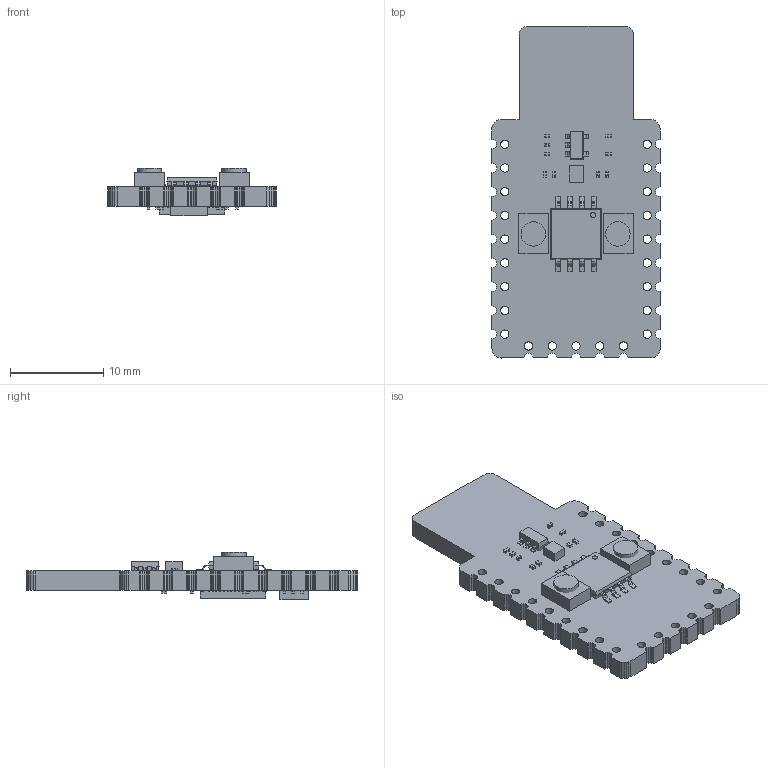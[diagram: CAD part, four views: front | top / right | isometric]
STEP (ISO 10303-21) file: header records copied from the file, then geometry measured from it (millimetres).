
FILE_DESCRIPTION(('Open CASCADE Model'),'2;1');
FILE_NAME('Open CASCADE Shape Model','2022-10-21T18:24:38',('Author'),( 'Open CASCADE'),'Open CASCADE STEP processor 6.5','Open CASCADE 6.5' ,'Unknown');
FILE_SCHEMA(('AUTOMOTIVE_DESIGN { 1 0 10303 214 1 1 1 1 }'));
Length unit declared in the file: millimetre
Products named in the file (54): PCB; Board; L1; 1075933568; Extruded; C6; User_Library-Chip_Cap_MLCC_0201_(0603); C1; C4; C2; X1; 1119525440; U3; User_Library-RP2040_QFN56_04; U2; User_Library-VSOP8; Pocket; Legs_Seite_2; Legs_Seite_1; U1; SW3DPS-SOT-23-5-DEFAULT; R8; User_Library-V0201HD; Anschl_X_FCsse_1; K_X_F6rper_1; R7; R6; R4; R3; R2; R1; C18; C19; C17; C16; C15; C14; C13; C12; C11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
Assembly tree (80 placements, depth 4):
  PCB
    Board
    L1
      1075933568
        Extruded
    C6
      User_Library-Chip_Cap_MLCC_0201_(0603)
    C1
      User_Library-Chip_Cap_MLCC_0201_(0603)
    C4
      User_Library-Chip_Cap_MLCC_0201_(0603)
    C2
      User_Library-Chip_Cap_MLCC_0201_(0603)
    X1
      1119525440
        Extruded
    U3
      User_Library-RP2040_QFN56_04
    U2
      User_Library-VSOP8
        Pocket
        Legs_Seite_2
        Legs_Seite_1
    U1
      SW3DPS-SOT-23-5-DEFAULT
    R8
      User_Library-V0201HD
        Anschl_X_FCsse_1
        K_X_F6rper_1
    R7
      User_Library-V0201HD
        Anschl_X_FCsse_1
        K_X_F6rper_1
    R6
      User_Library-V0201HD
        Anschl_X_FCsse_1
        K_X_F6rper_1
    R4
      User_Library-V0201HD
        Anschl_X_FCsse_1
        K_X_F6rper_1
    R3
      User_Library-V0201HD
        Anschl_X_FCsse_1
        K_X_F6rper_1
    R2
      User_Library-V0201HD
        Anschl_X_FCsse_1
        K_X_F6rper_1
    R1
      User_Library-V0201HD
        Anschl_X_FCsse_1
        K_X_F6rper_1
    C18
      User_Library-Chip_Cap_MLCC_0201_(0603)
    C19
      User_Library-Chip_Cap_MLCC_0201_(0603)
    C17
      User_Library-Chip_Cap_MLCC_0201_(0603)
    C16
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Bounding box: 18.02 x 35.52 x 5.09 mm (x, y, z)
Volume: 1317 mm3; surface area: 2012.2 mm2
Topology: 46 solids, 46 shells, 3524 faces, 9518 edges, 5959 vertices
Faces by surface type: plane 2390, cylinder 806, bspline 328
Full cylindrical faces by diameter (mm): 0.9 x23, 2.6 x2
Entity records: 182935 total; most frequent: CARTESIAN_POINT 38064, DIRECTION 23316, LINE 17535, VECTOR 17535, ORIENTED_EDGE 13318, PCURVE 13318, DEFINITIONAL_REPRESENTATION 13318, EDGE_CURVE 6659
